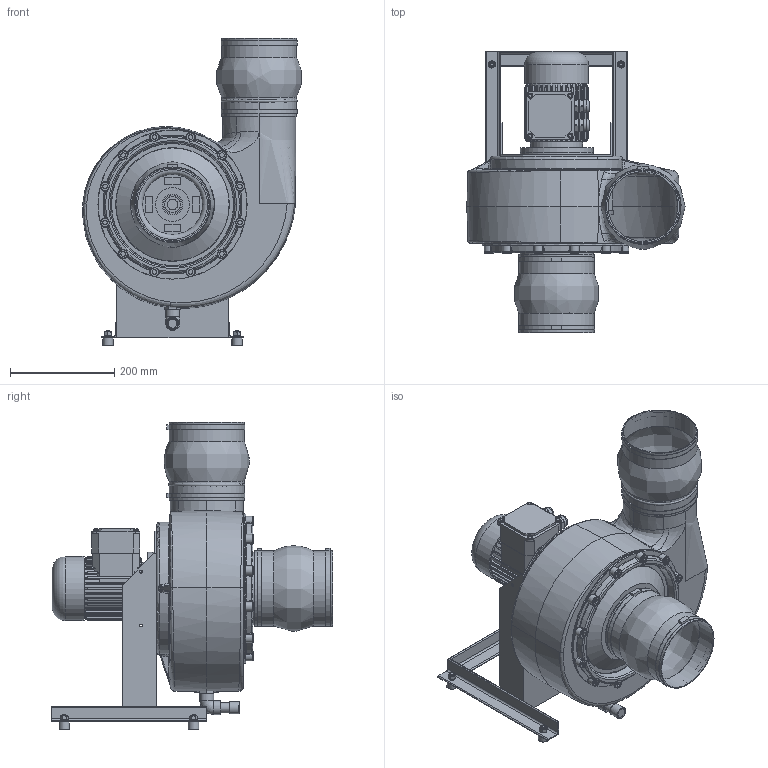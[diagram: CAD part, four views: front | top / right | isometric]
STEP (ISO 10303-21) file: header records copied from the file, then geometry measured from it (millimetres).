
FILE_DESCRIPTION( ( 'Unknown' ), '1' );
FILE_NAME( 'K:/HOME/HLT_CAD/Z/HF/3D/Zusammenstellung/HFR/HFR 15_17/HFR...-15D/DS_1/HFR_140-15D/GR360/HFR_140-15D_DS1_GR_360_063.stp', 'Unknown', ( 'Unknown' ), ( 'Unknown' ), 'PSStep 17.0.49', 'Unknown', ' ' );
FILE_SCHEMA( ( 'AUTOMOTIVE_DESIGN { 1 0 10303 214 1 1 1 1 }' ) );
Length unit declared in the file: millimetre
Products named in the file (31): 5280_Laufrad140; 5280_Deckscheibe; 5280_Grundplatte; 1108_14; 5267_Nabe; 5217_Laufradbefestigung; 5217_Drehteil; 5217_Flachdichtung_Ø32; 5217_Schraubkappe; 5217_Flachdichtung_Ø63; 5159_Kondensatablauf_125-315; Winkel_90°_G1_2; Stopfen_G1_2-oa0; Rohr_20; Verschlusskappe_20; 5282_Gestell_HFR140_15_17_DS1; Angle 30x30x3-oa1; Angle 30x30x3-oa2; Angle 30x30x3-oa3; 360°-oa4; 6203_Kugelmanschette; 6203_Manschettenband_HFR140; 6203_Schelle_HFR140; Assem1; 6611_Motorring_Bg63; 140 mit laufrad HF R 140; Schwidä_20x15; 6kant_M8; B5_63a_2HIHI; HFR 140_GR abgeschn
Assembly tree (38 placements, depth 3):
  Assem1
    6611_Motorring_Bg63
    140 mit laufrad HF R 140
    Schwidä_20x15  x4
    6kant_M8  x4
    B5_63a_2HIHI
    HFR 140_GR abgeschn
    HFR 140_GR abgeschn
    5280_Laufrad140
      5280_Deckscheibe
      5280_Grundplatte
      1108_14
      5267_Nabe
    5159_Kondensatablauf_125-315
      Winkel_90°_G1_2
      Stopfen_G1_2-oa0
      Rohr_20
      Verschlusskappe_20
    6203_Kugelmanschette  x2
      6203_Manschettenband_HFR140
      6203_Schelle_HFR140
    5217_Laufradbefestigung
      5217_Drehteil
      5217_Flachdichtung_Ø32
      5217_Schraubkappe
      5217_Flachdichtung_Ø63
    5282_Gestell_HFR140_15_17_DS1
      Angle 30x30x3-oa1
      Angle 30x30x3-oa2
      Angle 30x30x3-oa3
      360°-oa4
Bounding box: 418.9 x 540 x 590 mm (x, y, z)
Volume: 4554163.9 mm3; surface area: 2121870.1 mm2
Topology: 34 solids, 35 shells, 2262 faces, 5472 edges, 3405 vertices
Faces by surface type: plane 992, cylinder 547, bspline 357, cone 180, torus 152, offset 26, revolution 8
Full cylindrical faces by diameter (mm): 3.242 x1, 3.5 x3, 4.917 x4, 5.5 x4, 6 x8, 6.35 x2, 6.647 x4, 8 x8, 9 x18, 10 x8, 10.5 x1, 11 x13, 12 x41, 13 x45, 13.2 x1, 16 x14, 17 x20, 20 x8, 20.955 x1, 22.212 x1, 23 x1, 24 x4, 25 x1, 26.5 x2, 30.291 x1, 32 x1, 33.25 x1, 37 x1, 40 x1, 44 x1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
Entity records: 152571 total; most frequent: CARTESIAN_POINT 88579, ORIENTED_EDGE 9424, DIRECTION 8615, EDGE_CURVE 4712, AXIS2_PLACEMENT_3D 3466, VERTEX_POINT 3138, EDGE_LOOP 2837, FACE_OUTER_BOUND 2509
